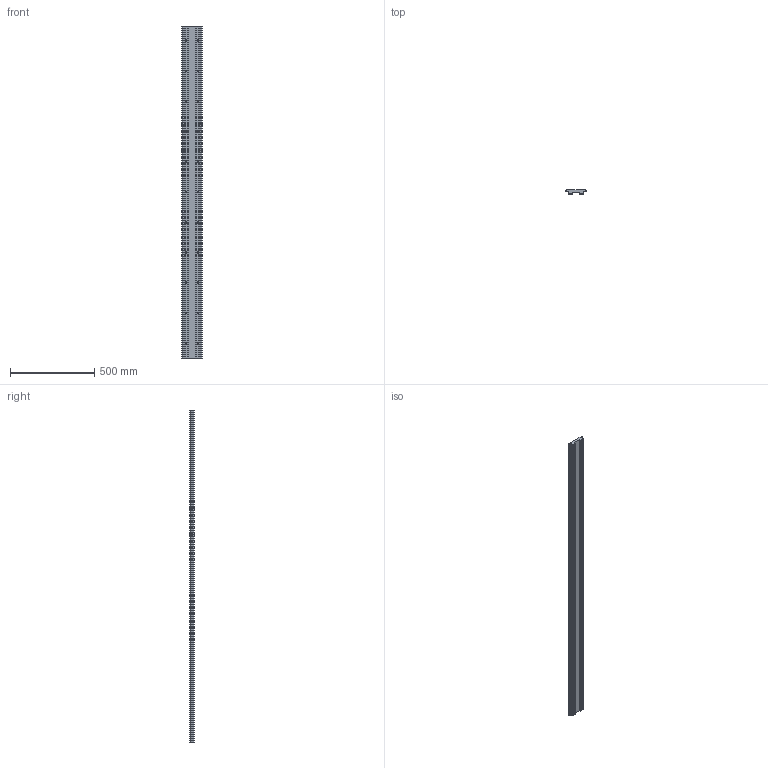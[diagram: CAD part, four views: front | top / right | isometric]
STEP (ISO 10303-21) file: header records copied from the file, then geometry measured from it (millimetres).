
FILE_DESCRIPTION(('STEP AP203'),'1');
FILE_NAME('slide_nl120l1976p1.stp','2022-07-01T05:47:25',('TraceParts'),('TraceParts S.A.'),'Spatial InterOp 3D',' ',' ');
FILE_SCHEMA(('CONFIG_CONTROL_DESIGN'));
Length unit declared in the file: millimetre
Products named in the file (1): 1
Bounding box: 119.61 x 24 x 1976 mm (x, y, z)
Volume: 3746665.4 mm3; surface area: 606885.1 mm2
Topology: 1 solids, 1 shells, 148 faces, 372 edges, 248 vertices
Faces by surface type: cylinder 100, plane 48
Entity records: 4668 total; most frequent: DIRECTION 870, CARTESIAN_POINT 769, ORIENTED_EDGE 744, EDGE_CURVE 372, AXIS2_PLACEMENT_3D 349, VERTEX_POINT 248, EDGE_LOOP 214, CIRCLE 200
